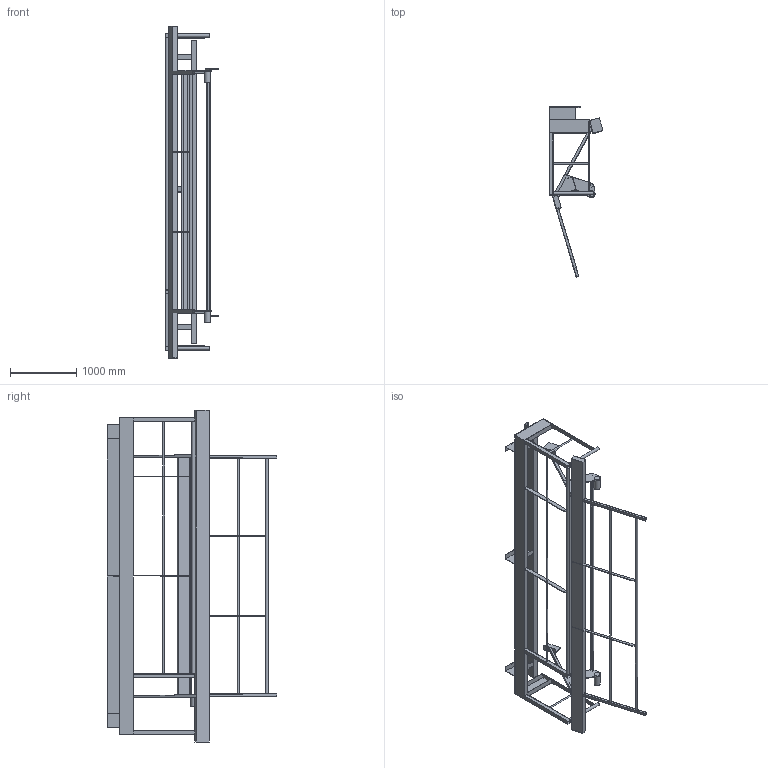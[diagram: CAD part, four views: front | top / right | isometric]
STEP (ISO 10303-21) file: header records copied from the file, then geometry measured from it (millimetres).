
FILE_DESCRIPTION((''),'2;1');
FILE_NAME('C:\Donnees\Projet\Chariot Garde corps MAN EDF\Projet final afpa\DOC protech\5000\inventor\3d Garde corps\Garde corps rangé.stp','2010-07-01T08:41:52',('twerion'),(''),'Autodesk Inventor 11','Autodesk Inventor 11','');
FILE_SCHEMA(('AUTOMOTIVE_DESIGN { 1 0 10303 214 1 1 1 1 }'));
Length unit declared in the file: millimetre
Products named in the file (5): Garde corps rangé; sym_Passerelle haute1; sym_31; sym_Passerelle basse1; sym_21
Assembly tree (4 placements, depth 3):
  Garde corps rangé
    sym_Passerelle haute1
      sym_31
    sym_Passerelle basse1
      sym_21
Bounding box: 815.11 x 2569.67 x 5019 mm (x, y, z)
Volume: 37956745 mm3; surface area: 21183963.4 mm2
Topology: 6 solids, 7 shells, 257 faces, 699 edges, 448 vertices
Faces by surface type: bspline 228, plane 27, cylinder 2
Entity records: 8213 total; most frequent: CARTESIAN_POINT 2313, ORIENTED_EDGE 1366, DIRECTION 799, EDGE_CURVE 683, VECTOR 643, LINE 643, VERTEX_POINT 444, EDGE_LOOP 305
